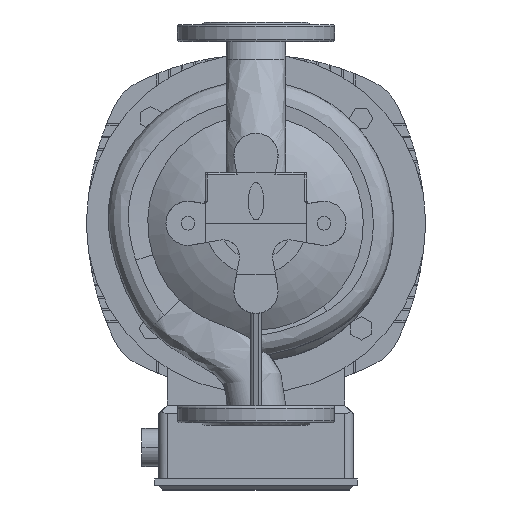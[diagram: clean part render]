
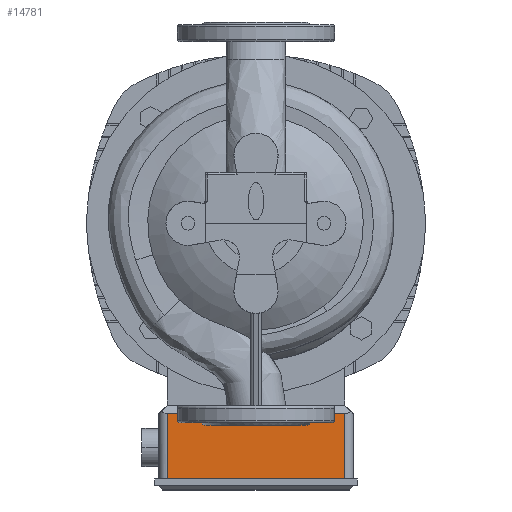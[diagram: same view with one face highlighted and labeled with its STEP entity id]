
A CAD part, front view. The second image highlights one B-rep face of the part: STEP entity #14781.
In plain terms, the highlighted planar face has unit normal (0, -1, 0) as drawn and (0, 0, 1) by its records, which use the part's own axes.
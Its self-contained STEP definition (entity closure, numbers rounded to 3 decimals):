
#192 = EDGE_CURVE ( 'NONE', #16288, #11505, #5131, .T. ) ;
#517 = CARTESIAN_POINT ( 'NONE',  ( -114.5, 224., -197. ) ) ;
#1383 = VECTOR ( 'NONE', #15524, 1000. ) ;
#1819 = VECTOR ( 'NONE', #24689, 1000. ) ;
#2749 = DIRECTION ( 'NONE',  ( 0., 0., 1. ) ) ;
#3129 = LINE ( 'NONE', #15147, #24456 ) ;
#5082 = FACE_OUTER_BOUND ( 'NONE', #10110, .T. ) ;
#5131 = LINE ( 'NONE', #517, #8167 ) ;
#5229 = DIRECTION ( 'NONE',  ( 1., 0., 0. ) ) ;
#8152 = LINE ( 'NONE', #20169, #1383 ) ;
#8167 = VECTOR ( 'NONE', #16698, 1000. ) ;
#9938 = CARTESIAN_POINT ( 'NONE',  ( 104.5, 301., -197. ) ) ;
#10110 = EDGE_LOOP ( 'NONE', ( #29722, #18265, #29581, #20168 ) ) ;
#10986 = LINE ( 'NONE', #13143, #1819 ) ;
#11505 = VERTEX_POINT ( 'NONE', #17337 ) ;
#13143 = CARTESIAN_POINT ( 'NONE',  ( -104.5, -653.809, -197. ) ) ;
#13391 = CARTESIAN_POINT ( 'NONE',  ( -104.5, 224., -197. ) ) ;
#14327 = CARTESIAN_POINT ( 'NONE',  ( -104.5, 301., -197. ) ) ;
#14468 = CARTESIAN_POINT ( 'NONE',  ( -114.5, -653.809, -197. ) ) ;
#14781 = ADVANCED_FACE ( 'NONE', ( #5082 ), #28958, .T. ) ;
#15147 = CARTESIAN_POINT ( 'NONE',  ( 104.5, -653.809, -197. ) ) ;
#15508 = VERTEX_POINT ( 'NONE', #9938 ) ;
#15524 = DIRECTION ( 'NONE',  ( 1., 0., 0. ) ) ;
#16288 = VERTEX_POINT ( 'NONE', #13391 ) ;
#16698 = DIRECTION ( 'NONE',  ( 1., 0., 0. ) ) ;
#17337 = CARTESIAN_POINT ( 'NONE',  ( 104.5, 224., -197. ) ) ;
#18265 = ORIENTED_EDGE ( 'NONE', *, *, #19390, .T. ) ;
#19390 = EDGE_CURVE ( 'NONE', #24987, #16288, #10986, .T. ) ;
#20168 = ORIENTED_EDGE ( 'NONE', *, *, #23586, .T. ) ;
#20169 = CARTESIAN_POINT ( 'NONE',  ( -114.5, 301., -197. ) ) ;
#21923 = DIRECTION ( 'NONE',  ( 0., 1., 0. ) ) ;
#23586 = EDGE_CURVE ( 'NONE', #11505, #15508, #3129, .T. ) ;
#24456 = VECTOR ( 'NONE', #21923, 1000. ) ;
#24689 = DIRECTION ( 'NONE',  ( 0., -1., 0. ) ) ;
#24987 = VERTEX_POINT ( 'NONE', #14327 ) ;
#25041 = EDGE_CURVE ( 'NONE', #24987, #15508, #8152, .T. ) ;
#28514 = AXIS2_PLACEMENT_3D ( 'NONE', #14468, #2749, #5229 ) ;
#28958 = PLANE ( 'NONE',  #28514 ) ;
#29581 = ORIENTED_EDGE ( 'NONE', *, *, #192, .T. ) ;
#29722 = ORIENTED_EDGE ( 'NONE', *, *, #25041, .F. ) ;
